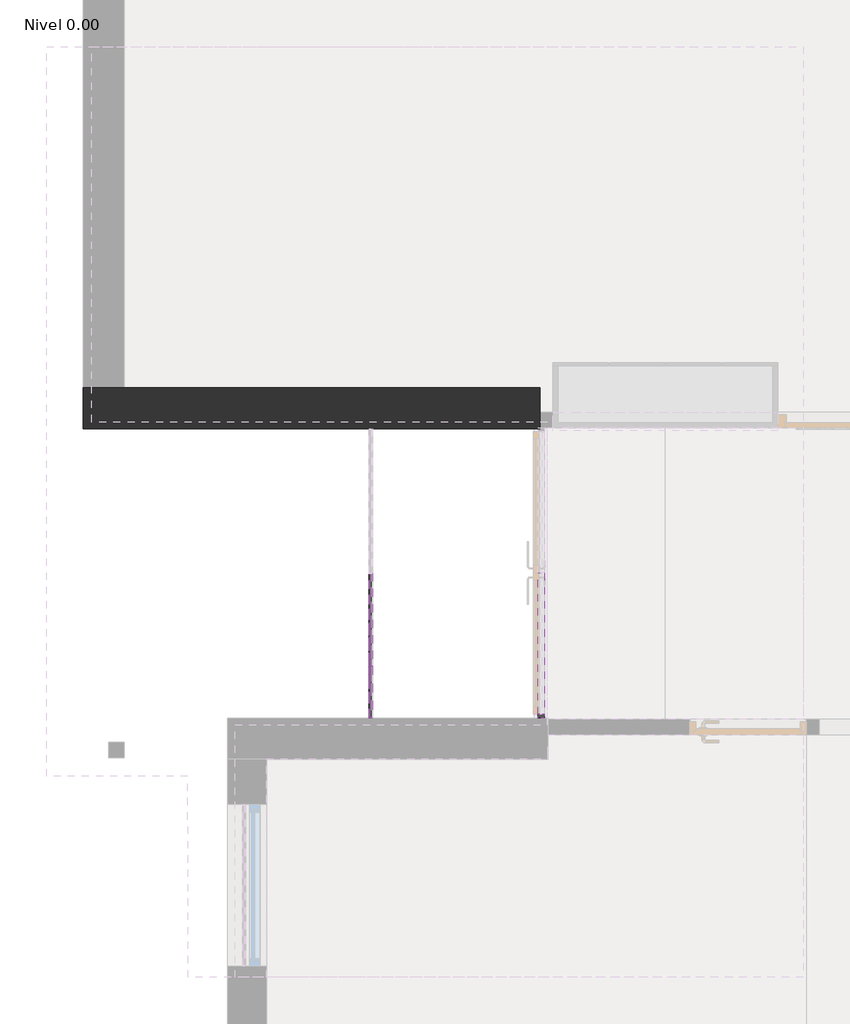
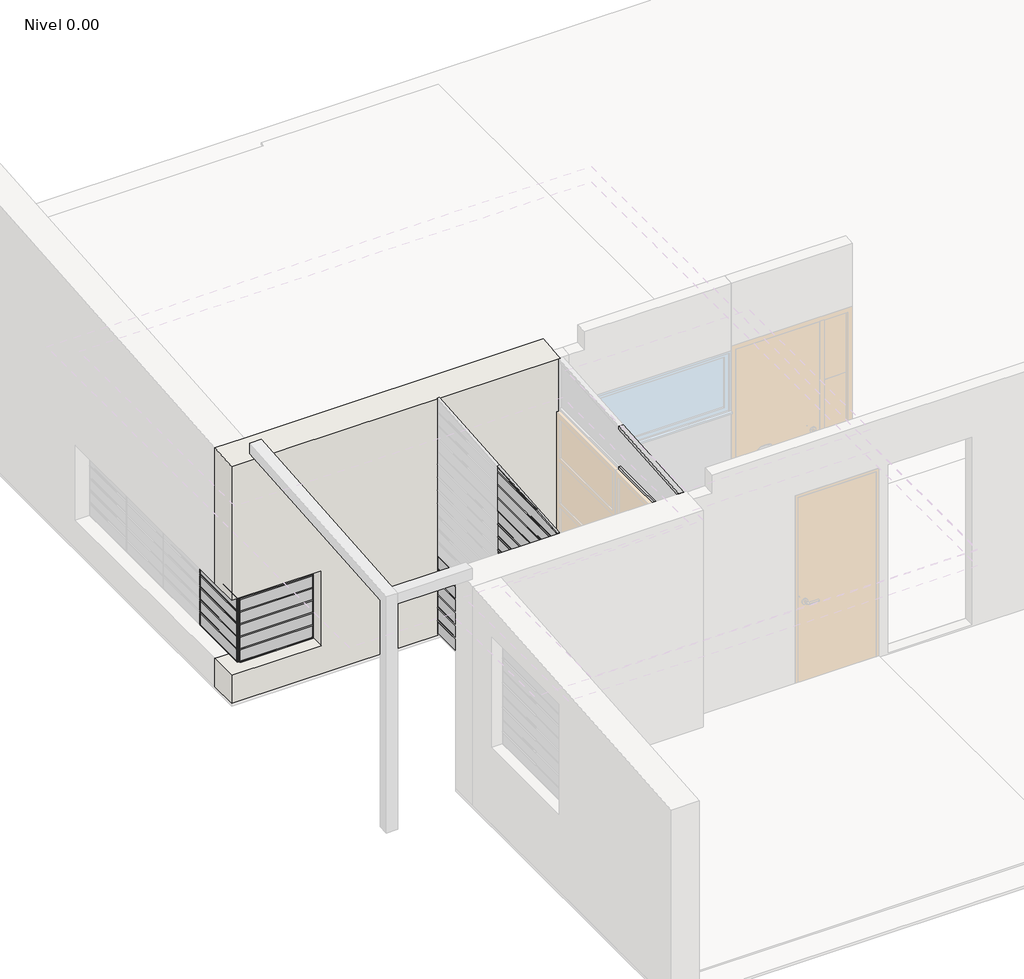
# One storey, part 2 of 27: 85 members, 38 plates, 1 wall.
"""IFC4 building model written with IfcOpenShell, lengths in millimetres."""

from ifc_helpers import new_model, si_unit, origin, place, context, project, spatial, faceted_brep, transform, mapped, element, save
from components import circular_mullion_b40c2762, circular_mullion_967670e0, circular_mullion_3fe6ea7b, circular_mullion_e8028f71, circular_mullion_aeaf9c3c, l_corner_mullion_d27054f3, l_corner_mullion_35e36f57, l_corner_mullion_eece8d42, l_corner_mullion_acac358a, rectangular_mullion_aea8bb05, rectangular_mullion_4be04775, rectangular_mullion_919e1dbe, rectangular_mullion_61d69578, rectangular_mullion_685686f8, rectangular_mullion_ea82ce8c, rectangular_mullion_f981cff7, rectangular_mullion_43c86492, rectangular_mullion_8b01d1bd, rectangular_mullion_4031b17f, rectangular_mullion_9108b79a, rectangular_mullion_a5abb8e0, rectangular_mullion_c34a0986, rectangular_mullion_f5d957c2, system_panel_5f4a1210, system_panel_862f567c, system_panel_f5b40a2c, system_panel_b0934166, system_panel_974456c7, system_panel_ae9d9fd1, system_panel_4abefd2b, system_panel_1cdc0100, system_panel_61a27c40, system_panel_86425350, system_panel_9ad5222e, system_panel_glazed_c627329a, system_panel_glazed_f99e615f

model = new_model("IFC4")

# Units and contexts
model_context = context("Model", 3, world=origin())
ifc_project = project(units=[si_unit("LENGTHUNIT", "METRE", prefix="MILLI")], contexts=[model_context])

# Site, building, storey
site = spatial("IfcSite", under=ifc_project)
building = spatial("IfcBuilding", under=site)
storey = spatial("IfcBuildingStorey", under=building, Name="Nivel 0.00", Elevation=0.0)

# Members
placement = place(None, origin())
circular_mullion_shape = circular_mullion_b40c2762(model_context)
element("IfcMember", 1, ObjectType="Circular Mullion : ARQ_HERR_16mm", at=placement, inside=storey, context=model_context, shape_type="MappedRepresentation", body=[
    mapped(circular_mullion_shape, transform((-15963.3995201, -684.5609004, 441.6666667), x_axis=(0.0, 0.0, 1.0), y_axis=(-1.0, 0.0, 0.0), z_axis=(0.0, -1.0, 0.0))),
])
element("IfcMember", 2, ObjectType="Circular Mullion : ARQ_HERR_16mm", at=placement, inside=storey, context=model_context, shape_type="MappedRepresentation", body=[
    mapped(circular_mullion_shape, transform((-15963.3995201, -684.5609004, 583.3333333), x_axis=(0.0, 0.0, 1.0), y_axis=(-1.0, 0.0, 0.0), z_axis=(0.0, -1.0, 0.0))),
])
element("IfcMember", 3, ObjectType="Circular Mullion : ARQ_HERR_16mm", at=placement, inside=storey, context=model_context, shape_type="MappedRepresentation", body=[
    mapped(circular_mullion_shape, transform((-15963.3995201, -684.5609004, 725.0), x_axis=(0.0, 0.0, 1.0), y_axis=(-1.0, 0.0, 0.0), z_axis=(0.0, -1.0, 0.0))),
])
element("IfcMember", 4, ObjectType="Circular Mullion : ARQ_HERR_16mm", at=placement, inside=storey, context=model_context, shape_type="MappedRepresentation", body=[
    mapped(circular_mullion_shape, transform((-15963.3995201, -684.5609004, 866.6666667), x_axis=(0.0, 0.0, 1.0), y_axis=(-1.0, 0.0, 0.0), z_axis=(0.0, -1.0, 0.0))),
])
element("IfcMember", 5, ObjectType="Circular Mullion : ARQ_HERR_16mm", at=placement, inside=storey, context=model_context, shape_type="MappedRepresentation", body=[
    mapped(circular_mullion_shape, transform((-15963.3995201, -684.5609004, 1008.3333333), x_axis=(0.0, 0.0, 1.0), y_axis=(-1.0, 0.0, 0.0), z_axis=(0.0, -1.0, 0.0))),
])
circular_mullion_2_shape = circular_mullion_967670e0(model_context)
element("IfcMember", 6, ObjectType="Circular Mullion : ARQ_HERR_16mm", at=placement, inside=storey, context=model_context, shape_type="MappedRepresentation", body=[
    mapped(circular_mullion_2_shape, transform((-15949.8995201, -692.0599239, 441.6666667), x_axis=(0.0, 0.0, 1.0), y_axis=(0.0, 1.0, 0.0), z_axis=(-1.0, 0.0, 0.0))),
])
element("IfcMember", 7, ObjectType="Circular Mullion : ARQ_HERR_16mm", at=placement, inside=storey, context=model_context, shape_type="MappedRepresentation", body=[
    mapped(circular_mullion_2_shape, transform((-15949.8995201, -692.0599239, 583.3333333), x_axis=(0.0, 0.0, 1.0), y_axis=(0.0, 1.0, 0.0), z_axis=(-1.0, 0.0, 0.0))),
])
element("IfcMember", 8, ObjectType="Circular Mullion : ARQ_HERR_16mm", at=placement, inside=storey, context=model_context, shape_type="MappedRepresentation", body=[
    mapped(circular_mullion_2_shape, transform((-15949.8995201, -692.0599239, 725.0), x_axis=(0.0, 0.0, 1.0), y_axis=(0.0, 1.0, 0.0), z_axis=(-1.0, 0.0, 0.0))),
])
element("IfcMember", 9, ObjectType="Circular Mullion : ARQ_HERR_16mm", at=placement, inside=storey, context=model_context, shape_type="MappedRepresentation", body=[
    mapped(circular_mullion_2_shape, transform((-15949.8995201, -692.0599239, 866.6666667), x_axis=(0.0, 0.0, 1.0), y_axis=(0.0, 1.0, 0.0), z_axis=(-1.0, 0.0, 0.0))),
])
element("IfcMember", 10, ObjectType="Circular Mullion : ARQ_HERR_16mm", at=placement, inside=storey, context=model_context, shape_type="MappedRepresentation", body=[
    mapped(circular_mullion_2_shape, transform((-15949.8995201, -692.0599239, 1008.3333333), x_axis=(0.0, 0.0, 1.0), y_axis=(0.0, 1.0, 0.0), z_axis=(-1.0, 0.0, 0.0))),
])
circular_mullion_3_shape = circular_mullion_3fe6ea7b(model_context)
element("IfcMember", 11, ObjectType="Circular Mullion : ARQ_HERR_16mm", at=placement, inside=storey, context=model_context, shape_type="MappedRepresentation", body=[
    mapped(circular_mullion_3_shape, transform((-13905.5666682, -3077.1047653, 148.0338449), x_axis=(0.0, 0.0, 1.0), y_axis=(-1.0, 0.0, 0.0), z_axis=(0.0, -1.0, 0.0))),
])
element("IfcMember", 12, ObjectType="Circular Mullion : ARQ_HERR_16mm", at=placement, inside=storey, context=model_context, shape_type="MappedRepresentation", body=[
    mapped(circular_mullion_3_shape, transform((-13905.5666682, -3077.1047653, 296.0676899), x_axis=(0.0, 0.0, 1.0), y_axis=(-1.0, 0.0, 0.0), z_axis=(0.0, -1.0, 0.0))),
])
element("IfcMember", 13, ObjectType="Circular Mullion : ARQ_HERR_16mm", at=placement, inside=storey, context=model_context, shape_type="MappedRepresentation", body=[
    mapped(circular_mullion_3_shape, transform((-13905.5666682, -3077.1047653, 444.1015348), x_axis=(0.0, 0.0, 1.0), y_axis=(-1.0, 0.0, 0.0), z_axis=(0.0, -1.0, 0.0))),
])
element("IfcMember", 14, ObjectType="Circular Mullion : ARQ_HERR_16mm", at=placement, inside=storey, context=model_context, shape_type="MappedRepresentation", body=[
    mapped(circular_mullion_3_shape, transform((-13905.5666682, -3077.1047653, 592.1353797), x_axis=(0.0, 0.0, 1.0), y_axis=(-1.0, 0.0, 0.0), z_axis=(0.0, -1.0, 0.0))),
])
element("IfcMember", 15, ObjectType="Circular Mullion : ARQ_HERR_16mm", at=placement, inside=storey, context=model_context, shape_type="MappedRepresentation", body=[
    mapped(circular_mullion_3_shape, transform((-13905.5666682, -3077.1047653, 740.1692247), x_axis=(0.0, 0.0, 1.0), y_axis=(-1.0, 0.0, 0.0), z_axis=(0.0, -1.0, 0.0))),
])
element("IfcMember", 16, ObjectType="Circular Mullion : ARQ_HERR_16mm", at=placement, inside=storey, context=model_context, shape_type="MappedRepresentation", body=[
    mapped(circular_mullion_3_shape, transform((-13905.5666682, -3077.1047653, 888.2030696), x_axis=(0.0, 0.0, 1.0), y_axis=(-1.0, 0.0, 0.0), z_axis=(0.0, -1.0, 0.0))),
])
element("IfcMember", 17, ObjectType="Circular Mullion : ARQ_HERR_16mm", at=placement, inside=storey, context=model_context, shape_type="MappedRepresentation", body=[
    mapped(circular_mullion_3_shape, transform((-13905.5666682, -3077.1047653, 1036.2369145), x_axis=(0.0, 0.0, 1.0), y_axis=(-1.0, 0.0, 0.0), z_axis=(0.0, -1.0, 0.0))),
])
element("IfcMember", 18, ObjectType="Circular Mullion : ARQ_HERR_16mm", at=placement, inside=storey, context=model_context, shape_type="MappedRepresentation", body=[
    mapped(circular_mullion_3_shape, transform((-13905.5666682, -3077.1047653, 1184.2707594), x_axis=(0.0, 0.0, 1.0), y_axis=(-1.0, 0.0, 0.0), z_axis=(0.0, -1.0, 0.0))),
])
element("IfcMember", 19, ObjectType="Circular Mullion : ARQ_HERR_16mm", at=placement, inside=storey, context=model_context, shape_type="MappedRepresentation", body=[
    mapped(circular_mullion_3_shape, transform((-13905.5666682, -3077.1047653, 1332.3046044), x_axis=(0.0, 0.0, 1.0), y_axis=(-1.0, 0.0, 0.0), z_axis=(0.0, -1.0, 0.0))),
])
element("IfcMember", 20, ObjectType="Circular Mullion : ARQ_HERR_16mm", at=placement, inside=storey, context=model_context, shape_type="MappedRepresentation", body=[
    mapped(circular_mullion_3_shape, transform((-13905.5666682, -3077.1047653, 1480.3384493), x_axis=(0.0, 0.0, 1.0), y_axis=(-1.0, 0.0, 0.0), z_axis=(0.0, -1.0, 0.0))),
])
element("IfcMember", 21, ObjectType="Circular Mullion : ARQ_HERR_16mm", at=placement, inside=storey, context=model_context, shape_type="MappedRepresentation", body=[
    mapped(circular_mullion_3_shape, transform((-13905.5666682, -3077.1047653, 1628.3722942), x_axis=(0.0, 0.0, 1.0), y_axis=(-1.0, 0.0, 0.0), z_axis=(0.0, -1.0, 0.0))),
])
element("IfcMember", 22, ObjectType="Circular Mullion : ARQ_HERR_16mm", at=placement, inside=storey, context=model_context, shape_type="MappedRepresentation", body=[
    mapped(circular_mullion_3_shape, transform((-13905.5666682, -3077.1047653, 1776.4061392), x_axis=(0.0, 0.0, 1.0), y_axis=(-1.0, 0.0, 0.0), z_axis=(0.0, -1.0, 0.0))),
])
element("IfcMember", 23, ObjectType="Circular Mullion : ARQ_HERR_16mm", at=placement, inside=storey, context=model_context, shape_type="MappedRepresentation", body=[
    mapped(circular_mullion_3_shape, transform((-13905.5666682, -3077.1047653, 1924.4399841), x_axis=(0.0, 0.0, 1.0), y_axis=(-1.0, 0.0, 0.0), z_axis=(0.0, -1.0, 0.0))),
])
circular_mullion_4_shape = circular_mullion_e8028f71(model_context)
element("IfcMember", 24, ObjectType="Circular Mullion : ARQ_HERR_16mm", at=placement, inside=storey, context=model_context, shape_type="MappedRepresentation", body=[
    mapped(circular_mullion_4_shape, transform((-13905.5666682, -3077.1047653, 2220.507674), x_axis=(0.0, 0.0, 1.0), y_axis=(-1.0, 0.0, 0.0), z_axis=(0.0, -1.0, 0.0))),
])
element("IfcMember", 25, ObjectType="Circular Mullion : ARQ_HERR_16mm", at=placement, inside=storey, context=model_context, shape_type="MappedRepresentation", body=[
    mapped(circular_mullion_4_shape, transform((-13905.5666682, -3077.1047653, 2368.5415189), x_axis=(0.0, 0.0, 1.0), y_axis=(-1.0, 0.0, 0.0), z_axis=(0.0, -1.0, 0.0))),
])
circular_mullion_5_shape = circular_mullion_aeaf9c3c(model_context)
element("IfcMember", 26, ObjectType="Circular Mullion : ARQ_HERR_16mm", at=placement, inside=storey, context=model_context, shape_type="MappedRepresentation", body=[
    mapped(circular_mullion_5_shape, transform((-13905.5666682, -2682.9071406, 2516.5753638), x_axis=(0.0, 0.0, 1.0), y_axis=(-1.0, 0.0, 0.0), z_axis=(0.0, -1.0, 0.0))),
])
l_corner_mullion_shape = l_corner_mullion_d27054f3(model_context)
element("IfcMember", 27, ObjectType="L Corner Mullion : ARQ_HERR_15X6mm", at=placement, inside=storey, context=model_context, shape_type="MappedRepresentation", body=[
    mapped(l_corner_mullion_shape, transform((-15963.3995201, -684.5609004, 1150.0), x_axis=(0.0, 0.0, 1.0), y_axis=(-1.0, 0.0, 0.0), z_axis=(0.0, -1.0, 0.0))),
])
element("IfcMember", 28, ObjectType="L Corner Mullion : ARQ_HERR_15X6mm", at=placement, inside=storey, context=model_context, shape_type="MappedRepresentation", body=[
    mapped(l_corner_mullion_shape, transform((-15963.3995201, -5.1848934, 300.0), x_axis=(0.0, 0.0, -1.0), y_axis=(-1.0, 0.0, 0.0), z_axis=(0.0, 1.0, 0.0))),
])
l_corner_mullion_2_shape = l_corner_mullion_35e36f57(model_context)
element("IfcMember", 29, ObjectType="L Corner Mullion : ARQ_HERR_15X6mm", at=placement, inside=storey, context=model_context, shape_type="MappedRepresentation", body=[
    mapped(l_corner_mullion_2_shape, transform((-15949.8995201, -692.0599239, 1150.0), x_axis=(0.0, 0.0, 1.0), y_axis=(0.0, 1.0, 0.0), z_axis=(-1.0, 0.0, 0.0))),
])
element("IfcMember", 30, ObjectType="L Corner Mullion : ARQ_HERR_15X6mm", at=placement, inside=storey, context=model_context, shape_type="MappedRepresentation", body=[
    mapped(l_corner_mullion_2_shape, transform((-15162.8399758, -692.0599239, 300.0), x_axis=(0.0, 0.0, -1.0), y_axis=(0.0, 1.0, 0.0), z_axis=(1.0, 0.0, 0.0))),
])
l_corner_mullion_3_shape = l_corner_mullion_eece8d42(model_context)
element("IfcMember", 31, ObjectType="L Corner Mullion : ARQ_HERR_15X6mm", at=placement, inside=storey, context=model_context, shape_type="MappedRepresentation", body=[
    mapped(l_corner_mullion_3_shape, transform((-13905.5666682, -3083.1047653, 2484.2877575), x_axis=(0.0, -0.08041785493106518, 0.9967612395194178), y_axis=(-1.0, 0.0, 0.0), z_axis=(0.0, -0.9967612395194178, -0.08041785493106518))),
])
l_corner_mullion_4_shape = l_corner_mullion_acac358a(model_context)
element("IfcMember", 32, ObjectType="L Corner Mullion : ARQ_HERR_15X6mm", at=placement, inside=storey, context=model_context, shape_type="MappedRepresentation", body=[
    mapped(l_corner_mullion_4_shape, transform((-13905.5666682, -2682.9071406, 2516.5753638), x_axis=(0.0, -0.08041785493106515, 0.9967612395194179), y_axis=(-1.0, 0.0, 0.0), z_axis=(0.0, -0.9967612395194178, -0.08041785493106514))),
])
rectangular_mullion_shape = rectangular_mullion_aea8bb05(model_context)
element("IfcMember", 33, ObjectType="Rectangular Mullion : ARQ_TV_MULL_50x30mm", at=placement, inside=storey, context=model_context, shape_type="MappedRepresentation", body=[
    mapped(rectangular_mullion_shape, transform((-15830.2266664, -540.5584873, 1150.0), x_axis=(0.0, 0.0, 1.0), y_axis=(-1.0, 0.0, 0.0), z_axis=(0.0, -1.0, 0.0))),
])
rectangular_mullion_2_shape = rectangular_mullion_4be04775(model_context)
element("IfcMember", 34, ObjectType="Rectangular Mullion : ARQ_TV_MULL_50x30mm", at=placement, inside=storey, context=model_context, shape_type="MappedRepresentation", body=[
    mapped(rectangular_mullion_2_shape, transform((-15830.2266664, -540.5584873, 300.0), x_axis=(0.0, -1.0, 0.0), y_axis=(-1.0, 0.0, 0.0), z_axis=(0.0, 0.0, -1.0))),
])
rectangular_mullion_3_shape = rectangular_mullion_919e1dbe(model_context)
element("IfcMember", 35, ObjectType="Rectangular Mullion : ARQ_TV_MULL_50x30mm", at=placement, inside=storey, context=model_context, shape_type="MappedRepresentation", body=[
    mapped(rectangular_mullion_3_shape, transform((-15805.2745201, -565.5588937, 1150.0), x_axis=(-1.0, 0.0, 0.0), y_axis=(0.0, -1.0, 0.0), z_axis=(0.0, 0.0, 1.0))),
])
element("IfcMember", 36, ObjectType="Rectangular Mullion : ARQ_TV_MULL_50x30mm", at=placement, inside=storey, context=model_context, shape_type="MappedRepresentation", body=[
    mapped(rectangular_mullion_3_shape, transform((-15156.8399758, -565.5588937, 300.0), x_axis=(1.0, 0.0, 0.0), y_axis=(0.0, -1.0, 0.0), z_axis=(0.0, 0.0, -1.0))),
])
rectangular_mullion_4_shape = rectangular_mullion_61d69578(model_context)
element("IfcMember", 37, ObjectType="Rectangular Mullion : ARQ_TV_MULL_50x30mm", at=placement, inside=storey, context=model_context, shape_type="MappedRepresentation", body=[
    mapped(rectangular_mullion_4_shape, transform((-15186.8399758, -565.5588937, 1150.0), x_axis=(0.0, 0.0, 1.0), y_axis=(0.0, -1.0, 0.0), z_axis=(1.0, 0.0, 0.0))),
])
element("IfcMember", 38, ObjectType="Rectangular Mullion : ARQ_TV_MULL_50x30mm", at=placement, inside=storey, context=model_context, shape_type="MappedRepresentation", body=[
    mapped(rectangular_mullion_4_shape, transform((-15775.2745201, -565.5588937, 300.0), x_axis=(0.0, 0.0, -1.0), y_axis=(0.0, -1.0, 0.0), z_axis=(-1.0, 0.0, 0.0))),
])
rectangular_mullion_5_shape = rectangular_mullion_685686f8(model_context)
element("IfcMember", 39, ObjectType="Rectangular Mullion : ARQ_TV_MULL_50x30mm", at=placement, inside=storey, context=model_context, shape_type="MappedRepresentation", body=[
    mapped(rectangular_mullion_5_shape, transform((-12585.5666682, -3053.1047653, 2100.0), x_axis=(0.0, 0.0, 1.0), y_axis=(-1.0, 0.0, 0.0), z_axis=(0.0, -1.0, 0.0))),
])
rectangular_mullion_6_shape = rectangular_mullion_ea82ce8c(model_context)
element("IfcMember", 40, ObjectType="Rectangular Mullion : ARQ_HERR_15X6mm", at=placement, inside=storey, context=model_context, shape_type="MappedRepresentation", body=[
    mapped(rectangular_mullion_6_shape, transform((-15963.3995201, -2.1848934, 300.0), x_axis=(0.0, -1.0, 0.0), y_axis=(-1.0, 0.0, 0.0), z_axis=(0.0, 0.0, -1.0))),
])
element("IfcMember", 41, ObjectType="Rectangular Mullion : ARQ_HERR_15X6mm", at=placement, inside=storey, context=model_context, shape_type="MappedRepresentation", body=[
    mapped(rectangular_mullion_6_shape, transform((-15963.3995201, -2.1848934, 441.6666667), x_axis=(0.0, -1.0, 0.0), y_axis=(-1.0, 0.0, 0.0), z_axis=(0.0, 0.0, -1.0))),
])
element("IfcMember", 42, ObjectType="Rectangular Mullion : ARQ_HERR_15X6mm", at=placement, inside=storey, context=model_context, shape_type="MappedRepresentation", body=[
    mapped(rectangular_mullion_6_shape, transform((-15963.3995201, -2.1848934, 583.3333333), x_axis=(0.0, -1.0, 0.0), y_axis=(-1.0, 0.0, 0.0), z_axis=(0.0, 0.0, -1.0))),
])
element("IfcMember", 43, ObjectType="Rectangular Mullion : ARQ_HERR_15X6mm", at=placement, inside=storey, context=model_context, shape_type="MappedRepresentation", body=[
    mapped(rectangular_mullion_6_shape, transform((-15963.3995201, -2.1848934, 725.0), x_axis=(0.0, -1.0, 0.0), y_axis=(-1.0, 0.0, 0.0), z_axis=(0.0, 0.0, -1.0))),
])
element("IfcMember", 44, ObjectType="Rectangular Mullion : ARQ_HERR_15X6mm", at=placement, inside=storey, context=model_context, shape_type="MappedRepresentation", body=[
    mapped(rectangular_mullion_6_shape, transform((-15963.3995201, -2.1848934, 866.6666667), x_axis=(0.0, -1.0, 0.0), y_axis=(-1.0, 0.0, 0.0), z_axis=(0.0, 0.0, -1.0))),
])
element("IfcMember", 45, ObjectType="Rectangular Mullion : ARQ_HERR_15X6mm", at=placement, inside=storey, context=model_context, shape_type="MappedRepresentation", body=[
    mapped(rectangular_mullion_6_shape, transform((-15963.3995201, -2.1848934, 1008.3333333), x_axis=(0.0, -1.0, 0.0), y_axis=(-1.0, 0.0, 0.0), z_axis=(0.0, 0.0, -1.0))),
])
rectangular_mullion_7_shape = rectangular_mullion_f981cff7(model_context)
element("IfcMember", 46, ObjectType="Rectangular Mullion : ARQ_HERR_15X6mm", at=placement, inside=storey, context=model_context, shape_type="MappedRepresentation", body=[
    mapped(rectangular_mullion_7_shape, transform((-15963.3995201, -690.5609004, 300.0), x_axis=(0.0, -1.0, 0.0), y_axis=(-1.0, 0.0, 0.0), z_axis=(0.0, 0.0, -1.0))),
])
element("IfcMember", 47, ObjectType="Rectangular Mullion : ARQ_HERR_15X6mm", at=placement, inside=storey, context=model_context, shape_type="MappedRepresentation", body=[
    mapped(rectangular_mullion_7_shape, transform((-15955.8995201, -692.0599239, 300.0), x_axis=(-1.0, 0.0, 0.0), y_axis=(0.0, 1.0, 0.0), z_axis=(0.0, 0.0, -1.0))),
])
element("IfcMember", 48, ObjectType="Rectangular Mullion : ARQ_HERR_15X6mm", at=placement, inside=storey, context=model_context, shape_type="MappedRepresentation", body=[
    mapped(rectangular_mullion_7_shape, transform((-15963.3995201, -690.5609004, 441.6666667), x_axis=(0.0, -1.0, 0.0), y_axis=(-1.0, 0.0, 0.0), z_axis=(0.0, 0.0, -1.0))),
])
element("IfcMember", 49, ObjectType="Rectangular Mullion : ARQ_HERR_15X6mm", at=placement, inside=storey, context=model_context, shape_type="MappedRepresentation", body=[
    mapped(rectangular_mullion_7_shape, transform((-15963.3995201, -690.5609004, 583.3333333), x_axis=(0.0, -1.0, 0.0), y_axis=(-1.0, 0.0, 0.0), z_axis=(0.0, 0.0, -1.0))),
])
element("IfcMember", 50, ObjectType="Rectangular Mullion : ARQ_HERR_15X6mm", at=placement, inside=storey, context=model_context, shape_type="MappedRepresentation", body=[
    mapped(rectangular_mullion_7_shape, transform((-15963.3995201, -690.5609004, 725.0), x_axis=(0.0, -1.0, 0.0), y_axis=(-1.0, 0.0, 0.0), z_axis=(0.0, 0.0, -1.0))),
])
element("IfcMember", 51, ObjectType="Rectangular Mullion : ARQ_HERR_15X6mm", at=placement, inside=storey, context=model_context, shape_type="MappedRepresentation", body=[
    mapped(rectangular_mullion_7_shape, transform((-15963.3995201, -690.5609004, 866.6666667), x_axis=(0.0, -1.0, 0.0), y_axis=(-1.0, 0.0, 0.0), z_axis=(0.0, 0.0, -1.0))),
])
element("IfcMember", 52, ObjectType="Rectangular Mullion : ARQ_HERR_15X6mm", at=placement, inside=storey, context=model_context, shape_type="MappedRepresentation", body=[
    mapped(rectangular_mullion_7_shape, transform((-15955.8995201, -692.0599239, 441.6666667), x_axis=(-1.0, 0.0, 0.0), y_axis=(0.0, 1.0, 0.0), z_axis=(0.0, 0.0, -1.0))),
])
element("IfcMember", 53, ObjectType="Rectangular Mullion : ARQ_HERR_15X6mm", at=placement, inside=storey, context=model_context, shape_type="MappedRepresentation", body=[
    mapped(rectangular_mullion_7_shape, transform((-15955.8995201, -692.0599239, 583.3333333), x_axis=(-1.0, 0.0, 0.0), y_axis=(0.0, 1.0, 0.0), z_axis=(0.0, 0.0, -1.0))),
])
element("IfcMember", 54, ObjectType="Rectangular Mullion : ARQ_HERR_15X6mm", at=placement, inside=storey, context=model_context, shape_type="MappedRepresentation", body=[
    mapped(rectangular_mullion_7_shape, transform((-15955.8995201, -692.0599239, 725.0), x_axis=(-1.0, 0.0, 0.0), y_axis=(0.0, 1.0, 0.0), z_axis=(0.0, 0.0, -1.0))),
])
element("IfcMember", 55, ObjectType="Rectangular Mullion : ARQ_HERR_15X6mm", at=placement, inside=storey, context=model_context, shape_type="MappedRepresentation", body=[
    mapped(rectangular_mullion_7_shape, transform((-15955.8995201, -692.0599239, 866.6666667), x_axis=(-1.0, 0.0, 0.0), y_axis=(0.0, 1.0, 0.0), z_axis=(0.0, 0.0, -1.0))),
])
element("IfcMember", 56, ObjectType="Rectangular Mullion : ARQ_HERR_15X6mm", at=placement, inside=storey, context=model_context, shape_type="MappedRepresentation", body=[
    mapped(rectangular_mullion_7_shape, transform((-15963.3995201, -690.5609004, 1008.3333333), x_axis=(0.0, -1.0, 0.0), y_axis=(-1.0, 0.0, 0.0), z_axis=(0.0, 0.0, -1.0))),
])
element("IfcMember", 57, ObjectType="Rectangular Mullion : ARQ_HERR_15X6mm", at=placement, inside=storey, context=model_context, shape_type="MappedRepresentation", body=[
    mapped(rectangular_mullion_7_shape, transform((-15955.8995201, -692.0599239, 1008.3333333), x_axis=(-1.0, 0.0, 0.0), y_axis=(0.0, 1.0, 0.0), z_axis=(0.0, 0.0, -1.0))),
])
element("IfcMember", 58, ObjectType="Rectangular Mullion : ARQ_HERR_15X6mm", at=placement, inside=storey, context=model_context, shape_type="MappedRepresentation", body=[
    mapped(rectangular_mullion_7_shape, transform((-15156.8399758, -692.0599239, 1150.0), x_axis=(1.0, 0.0, 0.0), y_axis=(0.0, 1.0, 0.0), z_axis=(0.0, 0.0, 1.0))),
])
element("IfcMember", 59, ObjectType="Rectangular Mullion : ARQ_HERR_15X6mm", at=placement, inside=storey, context=model_context, shape_type="MappedRepresentation", body=[
    mapped(rectangular_mullion_7_shape, transform((-15156.8399758, -692.0599239, 441.6666667), x_axis=(1.0, 0.0, 0.0), y_axis=(0.0, 1.0, 0.0), z_axis=(0.0, 0.0, 1.0))),
])
element("IfcMember", 60, ObjectType="Rectangular Mullion : ARQ_HERR_15X6mm", at=placement, inside=storey, context=model_context, shape_type="MappedRepresentation", body=[
    mapped(rectangular_mullion_7_shape, transform((-15156.8399758, -692.0599239, 583.3333333), x_axis=(1.0, 0.0, 0.0), y_axis=(0.0, 1.0, 0.0), z_axis=(0.0, 0.0, 1.0))),
])
element("IfcMember", 61, ObjectType="Rectangular Mullion : ARQ_HERR_15X6mm", at=placement, inside=storey, context=model_context, shape_type="MappedRepresentation", body=[
    mapped(rectangular_mullion_7_shape, transform((-15156.8399758, -692.0599239, 725.0), x_axis=(1.0, 0.0, 0.0), y_axis=(0.0, 1.0, 0.0), z_axis=(0.0, 0.0, 1.0))),
])
element("IfcMember", 62, ObjectType="Rectangular Mullion : ARQ_HERR_15X6mm", at=placement, inside=storey, context=model_context, shape_type="MappedRepresentation", body=[
    mapped(rectangular_mullion_7_shape, transform((-15156.8399758, -692.0599239, 866.6666667), x_axis=(1.0, 0.0, 0.0), y_axis=(0.0, 1.0, 0.0), z_axis=(0.0, 0.0, 1.0))),
])
element("IfcMember", 63, ObjectType="Rectangular Mullion : ARQ_HERR_15X6mm", at=placement, inside=storey, context=model_context, shape_type="MappedRepresentation", body=[
    mapped(rectangular_mullion_7_shape, transform((-15156.8399758, -692.0599239, 1008.3333333), x_axis=(1.0, 0.0, 0.0), y_axis=(0.0, 1.0, 0.0), z_axis=(0.0, 0.0, 1.0))),
])
rectangular_mullion_8_shape = rectangular_mullion_43c86492(model_context)
element("IfcMember", 64, ObjectType="Rectangular Mullion : ARQ_TV_MULL_50x30mm", at=placement, inside=storey, context=model_context, shape_type="MappedRepresentation", body=[
    mapped(rectangular_mullion_8_shape, transform((-12585.5666682, -3083.1047653, 0.0), x_axis=(0.0, -1.0, 0.0), y_axis=(-1.0, 0.0, 0.0), z_axis=(0.0, 0.0, -1.0))),
])
rectangular_mullion_9_shape = rectangular_mullion_8b01d1bd(model_context)
element("IfcMember", 65, ObjectType="Rectangular Mullion : ARQ_TV_MULL_50x30mm", at=placement, inside=storey, context=model_context, shape_type="MappedRepresentation", body=[
    mapped(rectangular_mullion_9_shape, transform((-12585.5666682, -3083.1047653, 1332.6051983), x_axis=(0.0, -1.0, 0.0), y_axis=(-1.0, 0.0, 0.0), z_axis=(0.0, 0.0, -1.0))),
])
rectangular_mullion_10_shape = rectangular_mullion_4031b17f(model_context)
element("IfcMember", 66, ObjectType="Rectangular Mullion : ARQ_TV_MULL_50x30mm", at=placement, inside=storey, context=model_context, shape_type="MappedRepresentation", body=[
    mapped(rectangular_mullion_10_shape, transform((-12585.5666682, -3083.1047653, 2484.2877575), x_axis=(0.0, -0.08041785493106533, 0.9967612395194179), y_axis=(-1.0, 0.0, 0.0), z_axis=(0.0, -0.9967612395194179, -0.08041785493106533))),
])
rectangular_mullion_11_shape = rectangular_mullion_9108b79a(model_context)
element("IfcMember", 67, ObjectType="Rectangular Mullion : ARQ_TV_MULL_50x30mm", at=placement, inside=storey, context=model_context, shape_type="MappedRepresentation", body=[
    mapped(rectangular_mullion_11_shape, transform((-12585.5666682, -3083.1047653, 2100.0), x_axis=(0.0, -1.0, 0.0), y_axis=(-1.0, 0.0, 0.0), z_axis=(0.0, 0.0, -1.0))),
])
rectangular_mullion_12_shape = rectangular_mullion_a5abb8e0(model_context)
element("IfcMember", 68, ObjectType="Rectangular Mullion : ARQ_HERR_15X6mm", at=placement, inside=storey, context=model_context, shape_type="MappedRepresentation", body=[
    mapped(rectangular_mullion_12_shape, transform((-13905.5666682, -3083.1047653, 0.0), x_axis=(0.0, -1.0, 0.0), y_axis=(-1.0, 0.0, 0.0), z_axis=(0.0, 0.0, -1.0))),
])
element("IfcMember", 69, ObjectType="Rectangular Mullion : ARQ_HERR_15X6mm", at=placement, inside=storey, context=model_context, shape_type="MappedRepresentation", body=[
    mapped(rectangular_mullion_12_shape, transform((-13905.5666682, -3083.1047653, 148.0338449), x_axis=(0.0, -1.0, 0.0), y_axis=(-1.0, 0.0, 0.0), z_axis=(0.0, 0.0, -1.0))),
])
element("IfcMember", 70, ObjectType="Rectangular Mullion : ARQ_HERR_15X6mm", at=placement, inside=storey, context=model_context, shape_type="MappedRepresentation", body=[
    mapped(rectangular_mullion_12_shape, transform((-13905.5666682, -3083.1047653, 296.0676899), x_axis=(0.0, -1.0, 0.0), y_axis=(-1.0, 0.0, 0.0), z_axis=(0.0, 0.0, -1.0))),
])
element("IfcMember", 71, ObjectType="Rectangular Mullion : ARQ_HERR_15X6mm", at=placement, inside=storey, context=model_context, shape_type="MappedRepresentation", body=[
    mapped(rectangular_mullion_12_shape, transform((-13905.5666682, -3083.1047653, 444.1015348), x_axis=(0.0, -1.0, 0.0), y_axis=(-1.0, 0.0, 0.0), z_axis=(0.0, 0.0, -1.0))),
])
element("IfcMember", 72, ObjectType="Rectangular Mullion : ARQ_HERR_15X6mm", at=placement, inside=storey, context=model_context, shape_type="MappedRepresentation", body=[
    mapped(rectangular_mullion_12_shape, transform((-13905.5666682, -3083.1047653, 592.1353797), x_axis=(0.0, -1.0, 0.0), y_axis=(-1.0, 0.0, 0.0), z_axis=(0.0, 0.0, -1.0))),
])
element("IfcMember", 73, ObjectType="Rectangular Mullion : ARQ_HERR_15X6mm", at=placement, inside=storey, context=model_context, shape_type="MappedRepresentation", body=[
    mapped(rectangular_mullion_12_shape, transform((-13905.5666682, -3083.1047653, 740.1692247), x_axis=(0.0, -1.0, 0.0), y_axis=(-1.0, 0.0, 0.0), z_axis=(0.0, 0.0, -1.0))),
])
element("IfcMember", 74, ObjectType="Rectangular Mullion : ARQ_HERR_15X6mm", at=placement, inside=storey, context=model_context, shape_type="MappedRepresentation", body=[
    mapped(rectangular_mullion_12_shape, transform((-13905.5666682, -3083.1047653, 888.2030696), x_axis=(0.0, -1.0, 0.0), y_axis=(-1.0, 0.0, 0.0), z_axis=(0.0, 0.0, -1.0))),
])
element("IfcMember", 75, ObjectType="Rectangular Mullion : ARQ_HERR_15X6mm", at=placement, inside=storey, context=model_context, shape_type="MappedRepresentation", body=[
    mapped(rectangular_mullion_12_shape, transform((-13905.5666682, -3083.1047653, 1036.2369145), x_axis=(0.0, -1.0, 0.0), y_axis=(-1.0, 0.0, 0.0), z_axis=(0.0, 0.0, -1.0))),
])
element("IfcMember", 76, ObjectType="Rectangular Mullion : ARQ_HERR_15X6mm", at=placement, inside=storey, context=model_context, shape_type="MappedRepresentation", body=[
    mapped(rectangular_mullion_12_shape, transform((-13905.5666682, -3083.1047653, 1184.2707594), x_axis=(0.0, -1.0, 0.0), y_axis=(-1.0, 0.0, 0.0), z_axis=(0.0, 0.0, -1.0))),
])
element("IfcMember", 77, ObjectType="Rectangular Mullion : ARQ_HERR_15X6mm", at=placement, inside=storey, context=model_context, shape_type="MappedRepresentation", body=[
    mapped(rectangular_mullion_12_shape, transform((-13905.5666682, -3083.1047653, 1332.3046044), x_axis=(0.0, -1.0, 0.0), y_axis=(-1.0, 0.0, 0.0), z_axis=(0.0, 0.0, -1.0))),
])
element("IfcMember", 78, ObjectType="Rectangular Mullion : ARQ_HERR_15X6mm", at=placement, inside=storey, context=model_context, shape_type="MappedRepresentation", body=[
    mapped(rectangular_mullion_12_shape, transform((-13905.5666682, -3083.1047653, 1480.3384493), x_axis=(0.0, -1.0, 0.0), y_axis=(-1.0, 0.0, 0.0), z_axis=(0.0, 0.0, -1.0))),
])
element("IfcMember", 79, ObjectType="Rectangular Mullion : ARQ_HERR_15X6mm", at=placement, inside=storey, context=model_context, shape_type="MappedRepresentation", body=[
    mapped(rectangular_mullion_12_shape, transform((-13905.5666682, -3083.1047653, 1628.3722942), x_axis=(0.0, -1.0, 0.0), y_axis=(-1.0, 0.0, 0.0), z_axis=(0.0, 0.0, -1.0))),
])
element("IfcMember", 80, ObjectType="Rectangular Mullion : ARQ_HERR_15X6mm", at=placement, inside=storey, context=model_context, shape_type="MappedRepresentation", body=[
    mapped(rectangular_mullion_12_shape, transform((-13905.5666682, -3083.1047653, 1776.4061392), x_axis=(0.0, -1.0, 0.0), y_axis=(-1.0, 0.0, 0.0), z_axis=(0.0, 0.0, -1.0))),
])
element("IfcMember", 81, ObjectType="Rectangular Mullion : ARQ_HERR_15X6mm", at=placement, inside=storey, context=model_context, shape_type="MappedRepresentation", body=[
    mapped(rectangular_mullion_12_shape, transform((-13905.5666682, -3083.1047653, 1924.4399841), x_axis=(0.0, -1.0, 0.0), y_axis=(-1.0, 0.0, 0.0), z_axis=(0.0, 0.0, -1.0))),
])
element("IfcMember", 82, ObjectType="Rectangular Mullion : ARQ_HERR_15X6mm", at=placement, inside=storey, context=model_context, shape_type="MappedRepresentation", body=[
    mapped(rectangular_mullion_12_shape, transform((-13905.5666682, -3083.1047653, 2072.473829), x_axis=(0.0, -1.0, 0.0), y_axis=(-1.0, 0.0, 0.0), z_axis=(0.0, 0.0, -1.0))),
])
element("IfcMember", 83, ObjectType="Rectangular Mullion : ARQ_HERR_15X6mm", at=placement, inside=storey, context=model_context, shape_type="MappedRepresentation", body=[
    mapped(rectangular_mullion_12_shape, transform((-13905.5666682, -3083.1047653, 2220.507674), x_axis=(0.0, -1.0, 0.0), y_axis=(-1.0, 0.0, 0.0), z_axis=(0.0, 0.0, -1.0))),
])
rectangular_mullion_13_shape = rectangular_mullion_c34a0986(model_context)
element("IfcMember", 84, ObjectType="Rectangular Mullion : ARQ_HERR_15X6mm", at=placement, inside=storey, context=model_context, shape_type="MappedRepresentation", body=[
    mapped(rectangular_mullion_13_shape, transform((-13905.5666682, -3083.1047653, 2368.5415189), x_axis=(0.0, -1.0, 0.0), y_axis=(-1.0, 0.0, 0.0), z_axis=(0.0, 0.0, -1.0))),
])
rectangular_mullion_14_shape = rectangular_mullion_f5d957c2(model_context)
element("IfcMember", 85, ObjectType="Rectangular Mullion : ARQ_HERR_15X6mm", at=placement, inside=storey, context=model_context, shape_type="MappedRepresentation", body=[
    mapped(rectangular_mullion_14_shape, transform((-13905.5666682, -3077.1047653, 2072.473829), x_axis=(0.0, 0.0, 1.0), y_axis=(-1.0, 0.0, 0.0), z_axis=(0.0, -1.0, 0.0))),
])

# Plates
system_panel_shape = system_panel_5f4a1210(model_context)
element("IfcPlate", 86, ObjectType="System Panel : VACÍO", at=placement, inside=storey, context=model_context, shape_type="MappedRepresentation", body=[
    mapped(system_panel_shape, transform((-15963.3995201, -344.8728969, 306.0), x_axis=(0.0, -1.0, 0.0), y_axis=(1.0, 0.0, 0.0), z_axis=(0.0, 0.0, 1.0))),
])
element("IfcPlate", 87, ObjectType="System Panel : VACÍO", at=placement, inside=storey, context=model_context, shape_type="MappedRepresentation", body=[
    mapped(system_panel_shape, transform((-15963.3995201, -344.8728969, 1016.3333333), x_axis=(0.0, -1.0, 0.0), y_axis=(1.0, 0.0, 0.0), z_axis=(0.0, 0.0, 1.0))),
])
system_panel_2_shape = system_panel_862f567c(model_context)
element("IfcPlate", 88, ObjectType="System Panel : VACÍO", at=placement, inside=storey, context=model_context, shape_type="MappedRepresentation", body=[
    mapped(system_panel_2_shape, transform((-15963.3995201, -344.8728969, 449.6666667), x_axis=(0.0, -1.0, 0.0), y_axis=(1.0, 0.0, 0.0), z_axis=(0.0, 0.0, 1.0))),
])
element("IfcPlate", 89, ObjectType="System Panel : VACÍO", at=placement, inside=storey, context=model_context, shape_type="MappedRepresentation", body=[
    mapped(system_panel_2_shape, transform((-15963.3995201, -344.8728969, 591.3333333), x_axis=(0.0, -1.0, 0.0), y_axis=(1.0, 0.0, 0.0), z_axis=(0.0, 0.0, 1.0))),
])
element("IfcPlate", 90, ObjectType="System Panel : VACÍO", at=placement, inside=storey, context=model_context, shape_type="MappedRepresentation", body=[
    mapped(system_panel_2_shape, transform((-15963.3995201, -344.8728969, 733.0), x_axis=(0.0, -1.0, 0.0), y_axis=(1.0, 0.0, 0.0), z_axis=(0.0, 0.0, 1.0))),
])
element("IfcPlate", 91, ObjectType="System Panel : VACÍO", at=placement, inside=storey, context=model_context, shape_type="MappedRepresentation", body=[
    mapped(system_panel_2_shape, transform((-15963.3995201, -344.8728969, 874.6666667), x_axis=(0.0, -1.0, 0.0), y_axis=(1.0, 0.0, 0.0), z_axis=(0.0, 0.0, 1.0))),
])
system_panel_3_shape = system_panel_f5b40a2c(model_context)
element("IfcPlate", 92, ObjectType="System Panel : VACÍO", at=placement, inside=storey, context=model_context, shape_type="MappedRepresentation", body=[
    mapped(system_panel_3_shape, transform((-15556.369748, -692.0599239, 306.0), x_axis=(-1.0, 0.0, 0.0), y_axis=(0.0, -1.0, 0.0), z_axis=(0.0, 0.0, 1.0))),
])
element("IfcPlate", 93, ObjectType="System Panel : VACÍO", at=placement, inside=storey, context=model_context, shape_type="MappedRepresentation", body=[
    mapped(system_panel_3_shape, transform((-15556.369748, -692.0599239, 1016.3333333), x_axis=(-1.0, 0.0, 0.0), y_axis=(0.0, -1.0, 0.0), z_axis=(0.0, 0.0, 1.0))),
])
system_panel_4_shape = system_panel_b0934166(model_context)
element("IfcPlate", 94, ObjectType="System Panel : VACÍO", at=placement, inside=storey, context=model_context, shape_type="MappedRepresentation", body=[
    mapped(system_panel_4_shape, transform((-15556.369748, -692.0599239, 449.6666667), x_axis=(-1.0, 0.0, 0.0), y_axis=(0.0, -1.0, 0.0), z_axis=(0.0, 0.0, 1.0))),
])
element("IfcPlate", 95, ObjectType="System Panel : VACÍO", at=placement, inside=storey, context=model_context, shape_type="MappedRepresentation", body=[
    mapped(system_panel_4_shape, transform((-15556.369748, -692.0599239, 591.3333333), x_axis=(-1.0, 0.0, 0.0), y_axis=(0.0, -1.0, 0.0), z_axis=(0.0, 0.0, 1.0))),
])
element("IfcPlate", 96, ObjectType="System Panel : VACÍO", at=placement, inside=storey, context=model_context, shape_type="MappedRepresentation", body=[
    mapped(system_panel_4_shape, transform((-15556.369748, -692.0599239, 733.0), x_axis=(-1.0, 0.0, 0.0), y_axis=(0.0, -1.0, 0.0), z_axis=(0.0, 0.0, 1.0))),
])
element("IfcPlate", 97, ObjectType="System Panel : VACÍO", at=placement, inside=storey, context=model_context, shape_type="MappedRepresentation", body=[
    mapped(system_panel_4_shape, transform((-15556.369748, -692.0599239, 874.6666667), x_axis=(-1.0, 0.0, 0.0), y_axis=(0.0, -1.0, 0.0), z_axis=(0.0, 0.0, 1.0))),
])
system_panel_5_shape = system_panel_974456c7(model_context)
element("IfcPlate", 98, ObjectType="System Panel : VACÍO", at=placement, inside=storey, context=model_context, shape_type="MappedRepresentation", body=[
    mapped(system_panel_5_shape, transform((-13905.5666682, -1408.3218667, 6.0), x_axis=(0.0, -1.0, 0.0), y_axis=(1.0, 0.0, 0.0), z_axis=(0.0, 0.0, 1.0))),
])
element("IfcPlate", 99, ObjectType="System Panel : VACÍO", at=placement, inside=storey, context=model_context, shape_type="MappedRepresentation", body=[
    mapped(system_panel_5_shape, transform((-13905.5666682, -2522.8437991, 6.0), x_axis=(0.0, -1.0, 0.0), y_axis=(1.0, 0.0, 0.0), z_axis=(0.0, 0.0, 1.0))),
])
system_panel_6_shape = system_panel_ae9d9fd1(model_context)
element("IfcPlate", 100, ObjectType="System Panel : VACÍO", at=placement, inside=storey, context=model_context, shape_type="MappedRepresentation", body=[
    mapped(system_panel_6_shape, transform((-13905.5666682, -1408.3218667, 156.0338449), x_axis=(0.0, -1.0, 0.0), y_axis=(1.0, 0.0, 0.0), z_axis=(0.0, 0.0, 1.0))),
])
element("IfcPlate", 101, ObjectType="System Panel : VACÍO", at=placement, inside=storey, context=model_context, shape_type="MappedRepresentation", body=[
    mapped(system_panel_6_shape, transform((-13905.5666682, -2522.8437991, 156.0338449), x_axis=(0.0, -1.0, 0.0), y_axis=(1.0, 0.0, 0.0), z_axis=(0.0, 0.0, 1.0))),
])
element("IfcPlate", 102, ObjectType="System Panel : VACÍO", at=placement, inside=storey, context=model_context, shape_type="MappedRepresentation", body=[
    mapped(system_panel_6_shape, transform((-13905.5666682, -1408.3218667, 304.0676899), x_axis=(0.0, -1.0, 0.0), y_axis=(1.0, 0.0, 0.0), z_axis=(0.0, 0.0, 1.0))),
])
element("IfcPlate", 103, ObjectType="System Panel : VACÍO", at=placement, inside=storey, context=model_context, shape_type="MappedRepresentation", body=[
    mapped(system_panel_6_shape, transform((-13905.5666682, -2522.8437991, 304.0676899), x_axis=(0.0, -1.0, 0.0), y_axis=(1.0, 0.0, 0.0), z_axis=(0.0, 0.0, 1.0))),
])
element("IfcPlate", 104, ObjectType="System Panel : VACÍO", at=placement, inside=storey, context=model_context, shape_type="MappedRepresentation", body=[
    mapped(system_panel_6_shape, transform((-13905.5666682, -1408.3218667, 452.1015348), x_axis=(0.0, -1.0, 0.0), y_axis=(1.0, 0.0, 0.0), z_axis=(0.0, 0.0, 1.0))),
])
element("IfcPlate", 105, ObjectType="System Panel : VACÍO", at=placement, inside=storey, context=model_context, shape_type="MappedRepresentation", body=[
    mapped(system_panel_6_shape, transform((-13905.5666682, -2522.8437991, 452.1015348), x_axis=(0.0, -1.0, 0.0), y_axis=(1.0, 0.0, 0.0), z_axis=(0.0, 0.0, 1.0))),
])
element("IfcPlate", 106, ObjectType="System Panel : VACÍO", at=placement, inside=storey, context=model_context, shape_type="MappedRepresentation", body=[
    mapped(system_panel_6_shape, transform((-13905.5666682, -1408.3218667, 600.1353797), x_axis=(0.0, -1.0, 0.0), y_axis=(1.0, 0.0, 0.0), z_axis=(0.0, 0.0, 1.0))),
])
element("IfcPlate", 107, ObjectType="System Panel : VACÍO", at=placement, inside=storey, context=model_context, shape_type="MappedRepresentation", body=[
    mapped(system_panel_6_shape, transform((-13905.5666682, -2522.8437991, 600.1353797), x_axis=(0.0, -1.0, 0.0), y_axis=(1.0, 0.0, 0.0), z_axis=(0.0, 0.0, 1.0))),
])
element("IfcPlate", 108, ObjectType="System Panel : VACÍO", at=placement, inside=storey, context=model_context, shape_type="MappedRepresentation", body=[
    mapped(system_panel_6_shape, transform((-13905.5666682, -1408.3218667, 748.1692247), x_axis=(0.0, -1.0, 0.0), y_axis=(1.0, 0.0, 0.0), z_axis=(0.0, 0.0, 1.0))),
])
element("IfcPlate", 109, ObjectType="System Panel : VACÍO", at=placement, inside=storey, context=model_context, shape_type="MappedRepresentation", body=[
    mapped(system_panel_6_shape, transform((-13905.5666682, -2522.8437991, 748.1692247), x_axis=(0.0, -1.0, 0.0), y_axis=(1.0, 0.0, 0.0), z_axis=(0.0, 0.0, 1.0))),
])
element("IfcPlate", 110, ObjectType="System Panel : VACÍO", at=placement, inside=storey, context=model_context, shape_type="MappedRepresentation", body=[
    mapped(system_panel_6_shape, transform((-13905.5666682, -2522.8437991, 896.2030696), x_axis=(0.0, -1.0, 0.0), y_axis=(1.0, 0.0, 0.0), z_axis=(0.0, 0.0, 1.0))),
])
element("IfcPlate", 111, ObjectType="System Panel : VACÍO", at=placement, inside=storey, context=model_context, shape_type="MappedRepresentation", body=[
    mapped(system_panel_6_shape, transform((-13905.5666682, -2522.8437991, 1044.2369145), x_axis=(0.0, -1.0, 0.0), y_axis=(1.0, 0.0, 0.0), z_axis=(0.0, 0.0, 1.0))),
])
element("IfcPlate", 112, ObjectType="System Panel : VACÍO", at=placement, inside=storey, context=model_context, shape_type="MappedRepresentation", body=[
    mapped(system_panel_6_shape, transform((-13905.5666682, -2522.8437991, 1192.2707594), x_axis=(0.0, -1.0, 0.0), y_axis=(1.0, 0.0, 0.0), z_axis=(0.0, 0.0, 1.0))),
])
element("IfcPlate", 113, ObjectType="System Panel : VACÍO", at=placement, inside=storey, context=model_context, shape_type="MappedRepresentation", body=[
    mapped(system_panel_6_shape, transform((-13905.5666682, -2522.8437991, 1340.3046044), x_axis=(0.0, -1.0, 0.0), y_axis=(1.0, 0.0, 0.0), z_axis=(0.0, 0.0, 1.0))),
])
element("IfcPlate", 114, ObjectType="System Panel : VACÍO", at=placement, inside=storey, context=model_context, shape_type="MappedRepresentation", body=[
    mapped(system_panel_6_shape, transform((-13905.5666682, -2522.8437991, 1488.3384493), x_axis=(0.0, -1.0, 0.0), y_axis=(1.0, 0.0, 0.0), z_axis=(0.0, 0.0, 1.0))),
])
element("IfcPlate", 115, ObjectType="System Panel : VACÍO", at=placement, inside=storey, context=model_context, shape_type="MappedRepresentation", body=[
    mapped(system_panel_6_shape, transform((-13905.5666682, -2522.8437991, 1636.3722942), x_axis=(0.0, -1.0, 0.0), y_axis=(1.0, 0.0, 0.0), z_axis=(0.0, 0.0, 1.0))),
])
element("IfcPlate", 116, ObjectType="System Panel : VACÍO", at=placement, inside=storey, context=model_context, shape_type="MappedRepresentation", body=[
    mapped(system_panel_6_shape, transform((-13905.5666682, -2522.8437991, 1784.4061392), x_axis=(0.0, -1.0, 0.0), y_axis=(1.0, 0.0, 0.0), z_axis=(0.0, 0.0, 1.0))),
])
system_panel_7_shape = system_panel_4abefd2b(model_context)
element("IfcPlate", 117, ObjectType="System Panel : VACÍO", at=placement, inside=storey, context=model_context, shape_type="MappedRepresentation", body=[
    mapped(system_panel_7_shape, transform((-13905.5666682, -2521.3437991, 2228.507674), x_axis=(0.0, -1.0, 0.0), y_axis=(1.0, 0.0, 0.0), z_axis=(0.0, 0.0, 1.0))),
])
system_panel_8_shape = system_panel_1cdc0100(model_context)
element("IfcPlate", 118, ObjectType="System Panel : VACÍO", at=placement, inside=storey, context=model_context, shape_type="MappedRepresentation", body=[
    mapped(system_panel_8_shape, transform((-13905.5666682, -2521.3437991, 2376.5415189), x_axis=(0.0, -1.0, 0.0), y_axis=(1.0, 0.0, 0.0), z_axis=(0.0, 0.0, 1.0))),
])
system_panel_9_shape = system_panel_61a27c40(model_context)
element("IfcPlate", 119, ObjectType="System Panel : VACÍO", at=placement, inside=storey, context=model_context, shape_type="MappedRepresentation", body=[
    mapped(system_panel_9_shape, transform((-13905.5666682, -2237.3607374, 2524.5753638), x_axis=(0.0, -1.0, 0.0), y_axis=(1.0, 0.0, 0.0), z_axis=(0.0, 0.0, 1.0))),
])
system_panel_10_shape = system_panel_86425350(model_context)
element("IfcPlate", 120, ObjectType="System Panel : VACÍO", at=placement, inside=storey, context=model_context, shape_type="MappedRepresentation", body=[
    mapped(system_panel_10_shape, transform((-13905.5666682, -2522.8437991, 1932.4399841), x_axis=(0.0, -1.0, 0.0), y_axis=(1.0, 0.0, 0.0), z_axis=(0.0, 0.0, 1.0))),
])
system_panel_11_shape = system_panel_9ad5222e(model_context)
element("IfcPlate", 121, ObjectType="System Panel : VACÍO", at=placement, inside=storey, context=model_context, shape_type="MappedRepresentation", body=[
    mapped(system_panel_11_shape, transform((-13905.5666682, -2521.3437991, 2075.473829), x_axis=(0.0, -1.0, 0.0), y_axis=(1.0, 0.0, 0.0), z_axis=(0.0, 0.0, 1.0))),
])
system_panel_glazed_shape = system_panel_glazed_c627329a(model_context)
element("IfcPlate", 122, ObjectType="System Panel : Glazed", at=placement, inside=storey, context=model_context, shape_type="MappedRepresentation", body=[
    mapped(system_panel_glazed_shape, transform((-15830.2266664, -204.6207855, 330.0), x_axis=(0.0, -1.0, 0.0), y_axis=(1.0, 0.0, 0.0), z_axis=(0.0, 0.0, 1.0))),
])
system_panel_glazed_2_shape = system_panel_glazed_f99e615f(model_context)
element("IfcPlate", 123, ObjectType="System Panel : Glazed", at=placement, inside=storey, context=model_context, shape_type="MappedRepresentation", body=[
    mapped(system_panel_glazed_2_shape, transform((-15481.057248, -565.5588937, 330.0), x_axis=(1.0, 0.0, 0.0), y_axis=(0.0, 1.0, 0.0), z_axis=(0.0, 0.0, 1.0))),
])

# Wall
element("IfcWall", 124, ObjectType="ARQ_MUR_M01_315mm", at=placement, inside=storey, context=model_context, shape_type="Brep", body=[
    faceted_brep([(-12595.5666682, -533.0609004, -20.0), (-15805.8995201, -533.0609004, -20.0), (-16120.8995201, -533.0609004, -20.0), (-16120.8995201, -533.0609004, 300.0), (-15805.8995201, -533.0609004, 300.0), (-15156.8399758, -533.0609004, 300.0), (-15156.8399758, -533.0609004, 1150.0), (-15805.8995201, -533.0609004, 1150.0), (-16120.8995201, -533.0609004, 1150.0), (-16120.8995201, -533.0609004, 2691.4190328), (-15805.8995201, -533.0609004, 2691.4190328), (-12595.5666682, -533.0609004, 2691.4190328), (-16120.8995201, -848.0609004, -20.0), (-12595.5666682, -848.0609004, -20.0), (-12595.5666682, -848.0609004, 2666.0596962), (-16120.8995201, -848.0609004, 2666.0596962), (-16120.8995201, -848.0609004, 1150.0), (-15156.8399758, -848.0609004, 1150.0), (-15156.8399758, -848.0609004, 300.0), (-16120.8995201, -848.0609004, 300.0), (-12595.5666682, -720.6093113, -20.0), (-12595.5666682, -840.6093113, -20.0), (-12595.5666682, -720.6093113, 2676.3202922), (-12595.5666682, -840.6093113, 2666.6595925)], [[[0, 1, 2, 3, 4, 5, 6, 7, 8, 9, 10, 11]], [[12, 13, 14, 15, 16, 17, 18, 19]], [[2, 1, 0, 20, 21, 13, 12]], [[0, 11, 22, 23, 14, 13, 21, 20]], [[6, 17, 16, 8, 7]], [[18, 5, 4, 3, 19]], [[17, 6, 5, 18]], [[2, 12, 19, 3]], [[15, 9, 8, 16]], [[11, 10, 9, 15, 14, 23, 22]]]),
])

save(model, "model.ifc")
